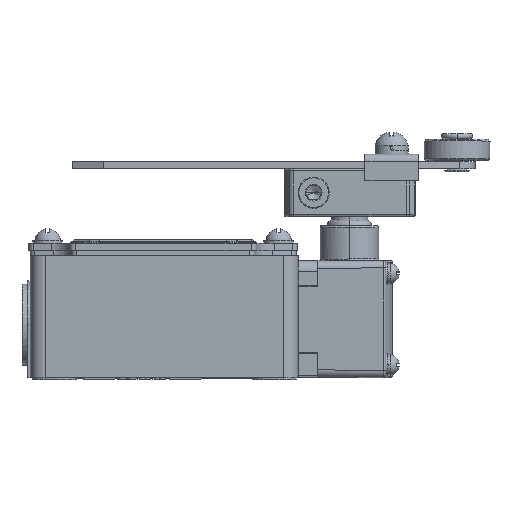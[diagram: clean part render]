
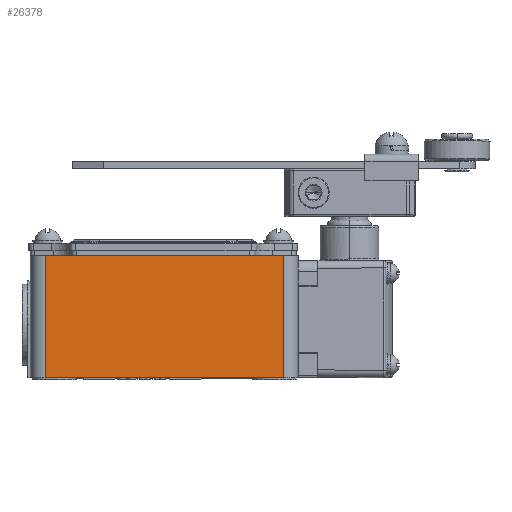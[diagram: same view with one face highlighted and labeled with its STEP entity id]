
A CAD part, top view. The second image highlights one B-rep face of the part: STEP entity #26378.
In plain terms, the highlighted planar face has unit normal (0, 0.009, 1).
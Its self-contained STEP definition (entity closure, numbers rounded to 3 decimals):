
#2016=DIRECTION('',(-1.,0.,0.));
#2017=VECTOR('',#2016,65.);
#2018=CARTESIAN_POINT('',(-4.,33.3,19.809));
#2019=LINE('',#2018,#2017);
#2972=CARTESIAN_POINT('',(-69.,0.,20.1));
#5534=DIRECTION('',(0.,-1.,0.009));
#5535=VECTOR('',#5534,33.301);
#5536=CARTESIAN_POINT('',(-4.,33.3,19.809));
#5537=LINE('',#5536,#5535);
#5538=DIRECTION('',(-1.,0.,0.));
#5539=VECTOR('',#5538,65.);
#5540=CARTESIAN_POINT('',(-4.,0.,20.1));
#5541=LINE('',#5540,#5539);
#5542=DIRECTION('',(0.,1.,-0.009));
#5543=VECTOR('',#5542,33.301);
#5544=CARTESIAN_POINT('',(-69.,0.,20.1));
#5545=LINE('',#5544,#5543);
#13314=VERTEX_POINT('',#2972);
#13316=CARTESIAN_POINT('',(-4.,0.,20.1));
#13317=VERTEX_POINT('',#13316);
#14110=CARTESIAN_POINT('',(-4.,33.3,19.809));
#14111=VERTEX_POINT('',#14110);
#14112=CARTESIAN_POINT('',(-69.,33.3,19.809));
#14113=VERTEX_POINT('',#14112);
#26367=CARTESIAN_POINT('',(-36.5,16.65,19.955));
#26368=DIRECTION('',(0.,0.009,1.));
#26369=DIRECTION('',(-1.,0.,0.));
#26370=AXIS2_PLACEMENT_3D('',#26367,#26368,#26369);
#26371=PLANE('',#26370);
#26372=ORIENTED_EDGE('',*,*,#26349,.T.);
#26373=ORIENTED_EDGE('',*,*,#20909,.T.);
#26374=ORIENTED_EDGE('',*,*,#21490,.T.);
#26375=ORIENTED_EDGE('',*,*,#20719,.F.);
#26376=EDGE_LOOP('',(#26372,#26373,#26374,#26375));
#26377=FACE_OUTER_BOUND('',#26376,.F.);
#26378=ADVANCED_FACE('',(#26377),#26371,.T.);
#20719=EDGE_CURVE('',#14111,#14113,#2019,.T.);
#20909=EDGE_CURVE('',#13317,#13314,#5541,.T.);
#21490=EDGE_CURVE('',#13314,#14113,#5545,.T.);
#26349=EDGE_CURVE('',#14111,#13317,#5537,.T.);
